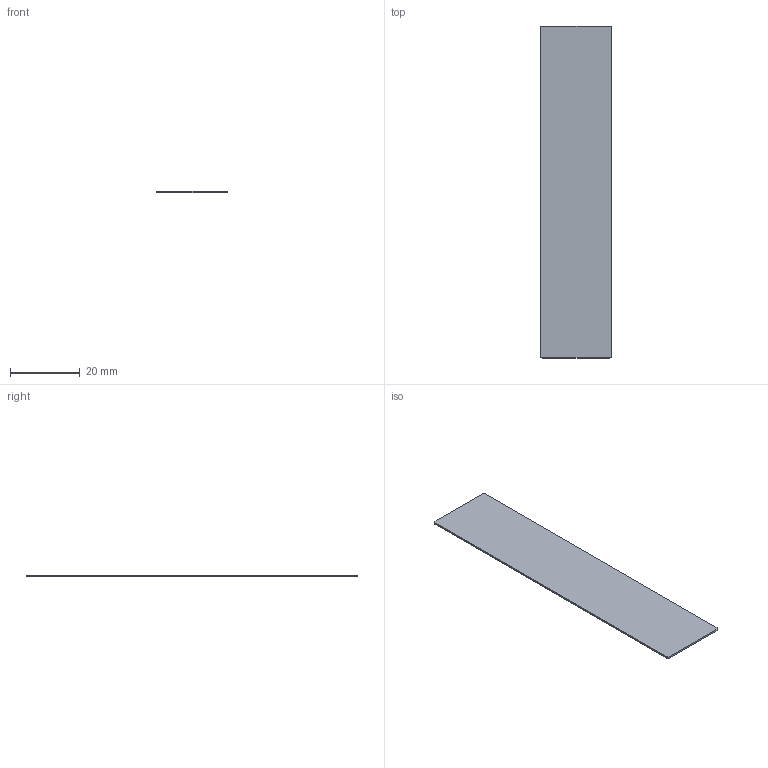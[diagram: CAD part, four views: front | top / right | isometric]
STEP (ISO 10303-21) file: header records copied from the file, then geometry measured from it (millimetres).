
FILE_DESCRIPTION(/* description */ (''),/* implementation_level */ '2;1');
FILE_NAME(/* name */ 'C27_R2_LTE_Dielectric_Seat.step',/* time_stamp */ '2026-09-10T17:49:34-07:00',/* author */ (''),/* organization */ (''),/* preprocessor_version */ 'ST-DEVELOPER v20.1',/* originating_system */ 'Autodesk Translation Framework v15.8.0.0',/* authorisation */ '');
FILE_SCHEMA (('AUTOMOTIVE_DESIGN { 1 0 10303 214 3 1 1 }'));
Length unit declared in the file: millimetre
Products named in the file (1): 2026-09-10-17-49-34-959
Bounding box: 20.4 x 95.4 x 0.5 mm (x, y, z)
Volume: 972.9 mm3; surface area: 4007 mm2
Topology: 1 solids, 1 shells, 10 faces, 24 edges, 16 vertices
Faces by surface type: plane 6, cylinder 4
Entity records: 329 total; most frequent: DIRECTION 54, CARTESIAN_POINT 51, ORIENTED_EDGE 48, EDGE_CURVE 24, AXIS2_PLACEMENT_3D 19, LINE 16, VECTOR 16, VERTEX_POINT 16
